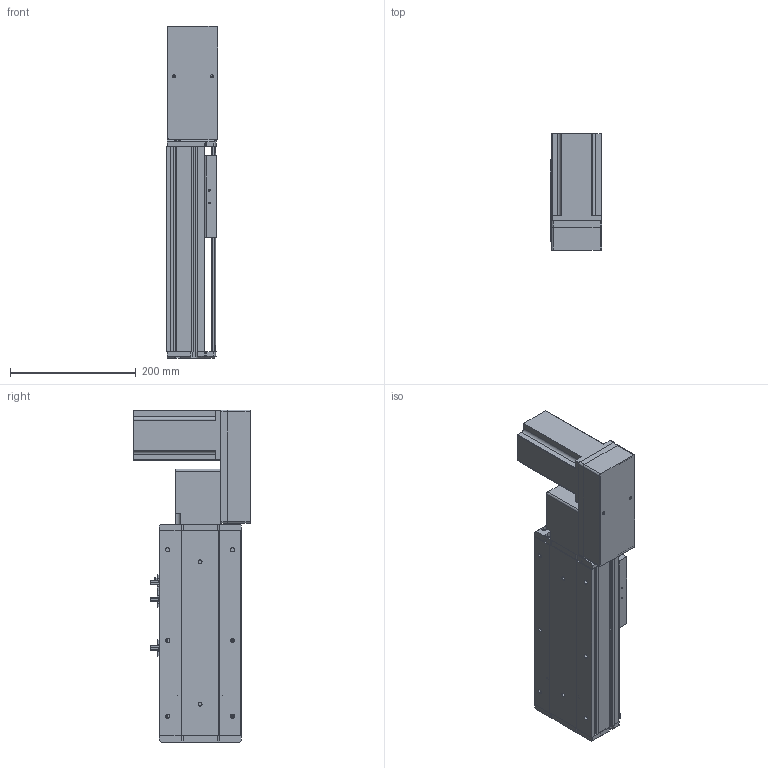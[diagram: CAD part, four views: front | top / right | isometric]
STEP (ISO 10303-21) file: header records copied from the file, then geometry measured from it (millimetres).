
FILE_DESCRIPTION (( 'STEP AP214' ), '1' );
FILE_NAME ('KSD130B-S100-MLB-CM.STEP', '2019-09-19T06:12:39', ( '微软用户' ), ( '微软中国' ), 'SwSTEP 2.0', 'SolidWorks 2014', '' );
FILE_SCHEMA (( 'AUTOMOTIVE_DESIGN' ));
Length unit declared in the file: millimetre
Products named in the file (12): 台达ECMA－C20807AS伺服电机; 130宽模组保护罩上下左右折-同步带; 130宽模组马达安装板连板左右折同步带; 覜茼え100遵圉猾敕; U倰嫖萇EEㄜSX672; 130宽盖板半封闭同步带-100行程; 130宽马达安装板同步带左-改; 130宽马达安装板同步带半封闭; 130宽同步带安装座半封闭; 130宽端盖同步带半封闭; 130宽底板半封闭同步带-100行程; KSD130B-S100-MLB-CM
Assembly tree (13 placements, depth 2):
  KSD130B-S100-MLB-CM
    130宽底板半封闭同步带-100行程
    130宽端盖同步带半封闭
    130宽同步带安装座半封闭
    130宽马达安装板同步带半封闭
    130宽马达安装板同步带左-改
    130宽盖板半封闭同步带-100行程
    U倰嫖萇EEㄜSX672  x3
    覜茼え100遵圉猾敕
    130宽模组马达安装板连板左右折同步带
    130宽模组保护罩上下左右折-同步带
    台达ECMA－C20807AS伺服电机
Bounding box: 82.5 x 184.8 x 527 mm (x, y, z)
Volume: 2561046.4 mm3; surface area: 616595.3 mm2
Topology: 14 solids, 14 shells, 1307 faces, 3621 edges, 2341 vertices
Faces by surface type: cylinder 598, plane 594, cone 115
Entity records: 40599 total; most frequent: CARTESIAN_POINT 6990, DIRECTION 6283, ORIENTED_EDGE 5998, EDGE_CURVE 2999, AXIS2_PLACEMENT_3D 2254, VERTEX_POINT 1965, VECTOR 1775, LINE 1775
